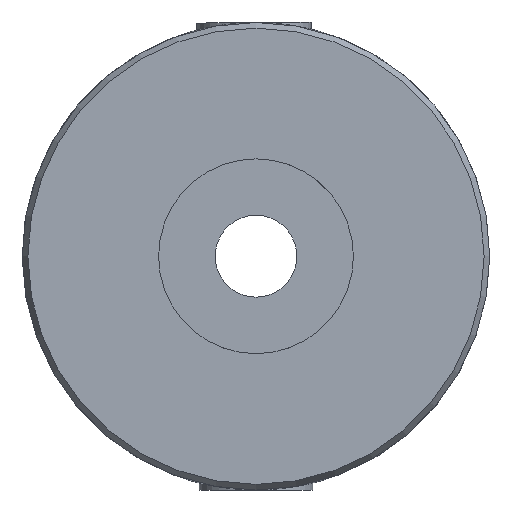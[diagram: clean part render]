
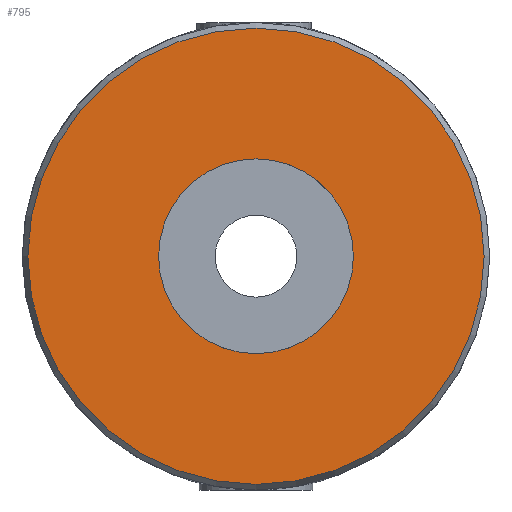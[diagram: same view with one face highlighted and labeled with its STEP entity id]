
A CAD part, front view. The second image highlights one B-rep face of the part: STEP entity #795.
In plain terms, the highlighted planar face has unit normal (0, -1, 0).
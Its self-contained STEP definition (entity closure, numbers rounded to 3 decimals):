
#48=FACE_BOUND('',#162,.T.);
#71=CIRCLE('',#880,11.711);
#77=CIRCLE('',#888,5.);
#110=FACE_OUTER_BOUND('',#161,.T.);
#161=EDGE_LOOP('',(#596));
#162=EDGE_LOOP('',(#597));
#353=VERTEX_POINT('',#1213);
#365=VERTEX_POINT('',#1275);
#438=EDGE_CURVE('',#353,#353,#71,.T.);
#451=EDGE_CURVE('',#365,#365,#77,.T.);
#596=ORIENTED_EDGE('',*,*,#438,.F.);
#597=ORIENTED_EDGE('',*,*,#451,.F.);
#731=PLANE('',#887);
#795=ADVANCED_FACE('',(#110,#48),#731,.F.);
#880=AXIS2_PLACEMENT_3D('',#1215,#1011,#1012);
#887=AXIS2_PLACEMENT_3D('',#1274,#1030,#1031);
#888=AXIS2_PLACEMENT_3D('',#1276,#1032,#1033);
#1011=DIRECTION('center_axis',(0.,1.,0.));
#1012=DIRECTION('ref_axis',(1.,0.,0.));
#1030=DIRECTION('center_axis',(0.,1.,0.));
#1031=DIRECTION('ref_axis',(0.,0.,1.));
#1032=DIRECTION('center_axis',(0.,-1.,0.));
#1033=DIRECTION('ref_axis',(1.,0.,0.));
#1213=CARTESIAN_POINT('',(-11.711,0.,0.));
#1215=CARTESIAN_POINT('Origin',(0.,0.,0.));
#1274=CARTESIAN_POINT('Origin',(0.,0.,0.));
#1275=CARTESIAN_POINT('',(-5.,0.,0.));
#1276=CARTESIAN_POINT('Origin',(0.,0.,0.));
